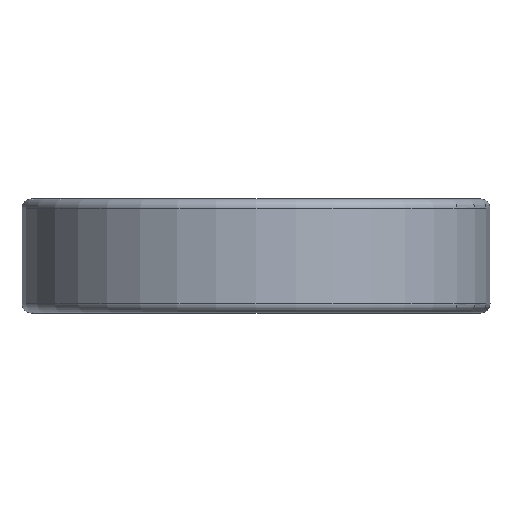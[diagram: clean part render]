
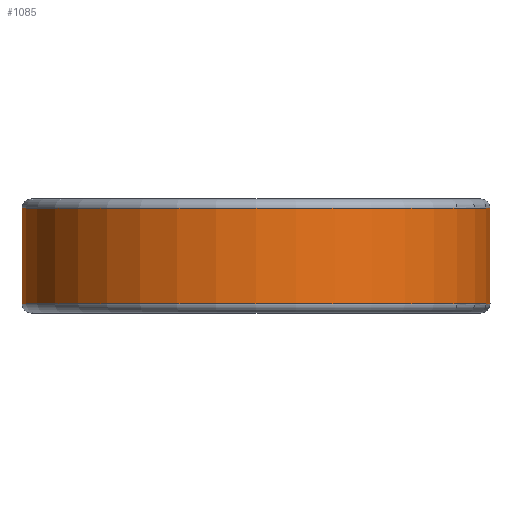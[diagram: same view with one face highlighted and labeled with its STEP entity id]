
A CAD part, left-side view. The second image highlights one B-rep face of the part: STEP entity #1085.
In plain terms, the highlighted cylindrical face has radius 39 mm (diameter 78 mm), a partial arc.
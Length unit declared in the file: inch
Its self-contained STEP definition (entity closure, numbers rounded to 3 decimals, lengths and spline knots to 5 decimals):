
#144=DIRECTION('',(0.,0.,1.));
#145=VECTOR('',#144,0.05781);
#146=CARTESIAN_POINT('',(1.49999,0.328,0.22737));
#147=LINE('',#146,#145);
#148=CARTESIAN_POINT('',(1.49999,0.328,0.52067));
#149=CARTESIAN_POINT('',(1.48733,0.38588,0.54138));
#150=CARTESIAN_POINT('',(1.4567,0.49392,0.57917));
#151=CARTESIAN_POINT('',(1.40119,0.63316,0.62034));
#152=CARTESIAN_POINT('',(1.3402,0.75284,0.64617));
#153=CARTESIAN_POINT('',(1.27733,0.8545,0.65705));
#154=CARTESIAN_POINT('',(1.21569,0.9396,0.65396));
#155=CARTESIAN_POINT('',(1.15779,1.00966,0.63825));
#156=CARTESIAN_POINT('',(1.10598,1.0658,0.61164));
#157=CARTESIAN_POINT('',(1.06245,1.10892,0.57665));
#158=CARTESIAN_POINT('',(1.02819,1.14057,0.53606));
#159=CARTESIAN_POINT('',(1.00298,1.16268,0.49181));
#160=CARTESIAN_POINT('',(0.98645,1.17667,0.44519));
#161=CARTESIAN_POINT('',(0.97833,1.1834,0.39727));
#162=CARTESIAN_POINT('',(0.97848,1.18327,0.34895));
#163=CARTESIAN_POINT('',(0.98691,1.17628,0.30106));
#164=CARTESIAN_POINT('',(1.00377,1.16201,0.25451));
#165=CARTESIAN_POINT('',(1.0293,1.13957,0.21038));
#166=CARTESIAN_POINT('',(1.06392,1.10752,0.16994));
#167=CARTESIAN_POINT('',(1.10781,1.06391,0.13521));
#168=CARTESIAN_POINT('',(1.15984,1.00731,0.109));
#169=CARTESIAN_POINT('',(1.21794,0.9367,0.09372));
#170=CARTESIAN_POINT('',(1.27963,0.85106,0.09114));
#171=CARTESIAN_POINT('',(1.34216,0.74931,0.10247));
#172=CARTESIAN_POINT('',(1.40255,0.63007,0.12853));
#173=CARTESIAN_POINT('',(1.45733,0.4919,0.16955));
#174=CARTESIAN_POINT('',(1.4875,0.38512,0.20693));
#175=CARTESIAN_POINT('',(1.49999,0.328,0.22737));
#177=DIRECTION('',(0.,0.,1.));
#178=VECTOR('',#177,0.05781);
#179=CARTESIAN_POINT('',(1.49999,0.328,0.46285));
#180=LINE('',#179,#178);
#196=DIRECTION('',(0.,0.,-1.));
#197=VECTOR('',#196,0.17768);
#198=CARTESIAN_POINT('',(1.49999,0.328,0.46285));
#199=LINE('',#198,#197);
#273=CARTESIAN_POINT('',(1.53416,0.0625,0.6882));
#283=DIRECTION('',(0.,0.,-1.));
#284=VECTOR('',#283,0.62836);
#285=CARTESIAN_POINT('',(1.53416,0.0625,0.6882));
#286=LINE('',#285,#284);
#295=CARTESIAN_POINT('',(1.53416,0.0625,0.05983));
#414=CARTESIAN_POINT('',(1.53416,-0.0625,
0.05983));
#424=DIRECTION('',(0.,0.,1.));
#425=VECTOR('',#424,0.62836);
#426=CARTESIAN_POINT('',(1.53416,-0.0625,
0.05983));
#427=LINE('',#426,#425);
#436=CARTESIAN_POINT('',(1.53416,-0.0625,
0.6882));
#574=CARTESIAN_POINT('',(0.,0.,0.05984));
#575=DIRECTION('',(0.,0.,-1.));
#576=DIRECTION('',(0.999,-0.041,0.));
#577=AXIS2_PLACEMENT_3D('',#574,#575,#576);
#579=CARTESIAN_POINT('',(0.,0.,0.68819));
#580=DIRECTION('',(0.,0.,1.));
#581=DIRECTION('',(0.999,0.041,0.));
#582=AXIS2_PLACEMENT_3D('',#579,#580,#581);
#584=CARTESIAN_POINT('',(1.26,-0.87747,0.51002));
#585=CARTESIAN_POINT('',(1.26965,-0.86361,
0.51002));
#586=CARTESIAN_POINT('',(1.28763,-0.83681,
0.50798));
#587=CARTESIAN_POINT('',(1.31067,-0.80016,
0.50091));
#588=CARTESIAN_POINT('',(1.3303,-0.76701,
0.49107));
#589=CARTESIAN_POINT('',(1.34687,-0.73746,
0.47927));
#590=CARTESIAN_POINT('',(1.36079,-0.71137,
0.46597));
#591=CARTESIAN_POINT('',(1.37239,-0.68868,
0.45133));
#592=CARTESIAN_POINT('',(1.38182,-0.66948,
0.43543));
#593=CARTESIAN_POINT('',(1.38909,-0.65422,
0.41816));
#594=CARTESIAN_POINT('',(1.39393,-0.6438,
0.39998));
#595=CARTESIAN_POINT('',(1.39621,-0.63895,
0.38161));
#596=CARTESIAN_POINT('',(1.39598,-0.63943,
0.36311));
#597=CARTESIAN_POINT('',(1.39329,-0.64521,
0.34503));
#598=CARTESIAN_POINT('',(1.38824,-0.656,
0.32755));
#599=CARTESIAN_POINT('',(1.38098,-0.67121,
0.31103));
#600=CARTESIAN_POINT('',(1.37161,-0.69023,
0.2956));
#601=CARTESIAN_POINT('',(1.36008,-0.71272,
0.28131));
#602=CARTESIAN_POINT('',(1.34623,-0.73861,
0.26825));
#603=CARTESIAN_POINT('',(1.32974,-0.76796,
0.25664));
#604=CARTESIAN_POINT('',(1.31024,-0.80086,
0.24696));
#605=CARTESIAN_POINT('',(1.28737,-0.83722,
0.24001));
#606=CARTESIAN_POINT('',(1.26955,-0.86376,
0.23802));
#607=CARTESIAN_POINT('',(1.26,-0.87747,0.23802));
#617=CARTESIAN_POINT('',(1.26,-0.87747,0.23802));
#618=CARTESIAN_POINT('',(1.2495,-0.89255,
0.23802));
#619=CARTESIAN_POINT('',(1.22897,-0.92087,
0.24044));
#620=CARTESIAN_POINT('',(1.20049,-0.9576,
0.25052));
#621=CARTESIAN_POINT('',(1.17538,-0.98815,
0.26622));
#622=CARTESIAN_POINT('',(1.15467,-1.01219,0.28642));
#623=CARTESIAN_POINT('',(1.13908,-1.02964,0.30978));
#624=CARTESIAN_POINT('',(1.12882,-1.04085,0.3349));
#625=CARTESIAN_POINT('',(1.1237,-1.04635,0.36143));
#626=CARTESIAN_POINT('',(1.12387,-1.04617,0.38827));
#627=CARTESIAN_POINT('',(1.12927,-1.04035,0.41457));
#628=CARTESIAN_POINT('',(1.13971,-1.02894,0.43939));
#629=CARTESIAN_POINT('',(1.15536,-1.01141,0.46241));
#630=CARTESIAN_POINT('',(1.17601,-0.9874,
0.48228));
#631=CARTESIAN_POINT('',(1.20096,-0.95701,
0.49772));
#632=CARTESIAN_POINT('',(1.22922,-0.92054,
0.50763));
#633=CARTESIAN_POINT('',(1.24959,-0.89243,
0.51002));
#634=CARTESIAN_POINT('',(1.26,-0.87747,0.51002));
#669=CARTESIAN_POINT('',(1.49999,0.328,0.28518));
#671=VERTEX_POINT('',#669);
#672=CARTESIAN_POINT('',(1.49999,0.328,0.46285));
#674=VERTEX_POINT('',#672);
#719=VERTEX_POINT('',#414);
#720=VERTEX_POINT('',#436);
#735=VERTEX_POINT('',#273);
#737=VERTEX_POINT('',#295);
#751=CARTESIAN_POINT('',(1.49999,0.328,0.22737));
#752=VERTEX_POINT('',#751);
#753=CARTESIAN_POINT('',(1.49999,0.328,0.52067));
#754=VERTEX_POINT('',#753);
#755=VERTEX_POINT('',#617);
#756=VERTEX_POINT('',#634);
#1056=CARTESIAN_POINT('',(0.,0.,0.74803));
#1057=DIRECTION('',(0.,0.,-1.));
#1058=DIRECTION('',(-1.,0.,0.));
#1059=AXIS2_PLACEMENT_3D('',#1056,#1057,#1058);
#1060=CYLINDRICAL_SURFACE('',#1059,1.53543);
#1062=ORIENTED_EDGE('',*,*,#1061,.T.);
#1064=ORIENTED_EDGE('',*,*,#1063,.F.);
#1066=ORIENTED_EDGE('',*,*,#1065,.T.);
#1068=ORIENTED_EDGE('',*,*,#1067,.F.);
#1069=EDGE_LOOP('',(#1062,#1064,#1066,#1068));
#1070=FACE_OUTER_BOUND('',#1069,.F.);
#1071=ORIENTED_EDGE('',*,*,#1024,.F.);
#1073=ORIENTED_EDGE('',*,*,#1072,.F.);
#1074=ORIENTED_EDGE('',*,*,#1020,.F.);
#1076=ORIENTED_EDGE('',*,*,#1075,.T.);
#1077=EDGE_LOOP('',(#1071,#1073,#1074,#1076));
#1078=FACE_BOUND('',#1077,.F.);
#1080=ORIENTED_EDGE('',*,*,#1079,.F.);
#1082=ORIENTED_EDGE('',*,*,#1081,.F.);
#1083=EDGE_LOOP('',(#1080,#1082));
#1084=FACE_BOUND('',#1083,.F.);
#176=B_SPLINE_CURVE_WITH_KNOTS('',3,(#148,#149,#150,#151,#152,#153,#154,#155,
#156,#157,#158,#159,#160,#161,#162,#163,#164,#165,#166,#167,#168,#169,#170,#171,
#172,#173,#174,#175),.UNSPECIFIED.,.F.,.F.,(4,1,1,1,1,1,1,1,1,1,1,1,1,1,1,1,1,1,
1,1,1,1,1,1,1,4),(0.,0.04,0.08,0.12,0.16,0.2,0.24,0.28,0.32,
0.36,0.4,0.44,0.48,0.52,0.56,0.6,0.64,0.68,0.72,0.76,
0.8,0.84,0.88,0.92,0.96,1.),.UNSPECIFIED.);
#578=CIRCLE('',#577,1.53543);
#583=CIRCLE('',#582,1.53543);
#608=B_SPLINE_CURVE_WITH_KNOTS('',3,(#584,#585,#586,#587,#588,#589,#590,#591,
#592,#593,#594,#595,#596,#597,#598,#599,#600,#601,#602,#603,#604,#605,#606,
#607),.UNSPECIFIED.,.F.,.F.,(4,1,1,1,1,1,1,1,1,1,1,1,1,1,1,1,1,1,1,1,1,4),(0.,
0.04762,0.09524,0.14286,0.19048,
0.2381,0.28571,0.33333,0.38095,
0.42857,0.47619,0.52381,0.57143,
0.61905,0.66667,0.71429,0.7619,
0.80952,0.85714,0.90476,0.95238,1.),
.UNSPECIFIED.);
#635=B_SPLINE_CURVE_WITH_KNOTS('',3,(#617,#618,#619,#620,#621,#622,#623,#624,
#625,#626,#627,#628,#629,#630,#631,#632,#633,#634),.UNSPECIFIED.,.F.,.F.,(4,1,1,
1,1,1,1,1,1,1,1,1,1,1,1,4),(0.,0.06667,0.13333,0.2,
0.26667,0.33333,0.4,0.46667,0.53333,
0.6,0.66667,0.73333,0.8,0.86667,
0.93333,1.),.UNSPECIFIED.);
#1020=EDGE_CURVE('',#674,#754,#180,.T.);
#1024=EDGE_CURVE('',#752,#671,#147,.T.);
#1061=EDGE_CURVE('',#719,#737,#578,.T.);
#1063=EDGE_CURVE('',#735,#737,#286,.T.);
#1065=EDGE_CURVE('',#735,#720,#583,.T.);
#1067=EDGE_CURVE('',#719,#720,#427,.T.);
#1072=EDGE_CURVE('',#754,#752,#176,.T.);
#1075=EDGE_CURVE('',#674,#671,#199,.T.);
#1079=EDGE_CURVE('',#755,#756,#635,.T.);
#1081=EDGE_CURVE('',#756,#755,#608,.T.);
#1085=ADVANCED_FACE('',(#1070,#1078,#1084),#1060,.T.);
